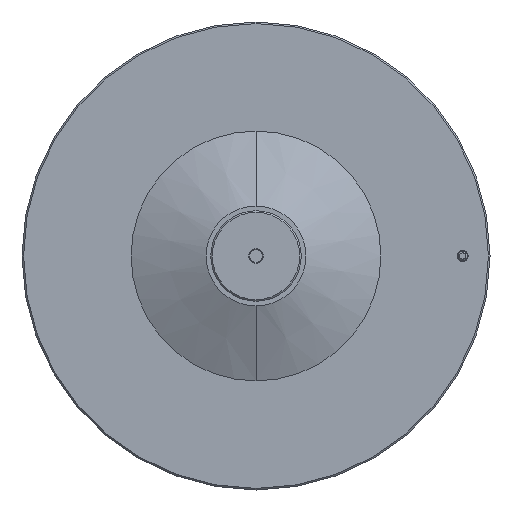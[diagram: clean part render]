
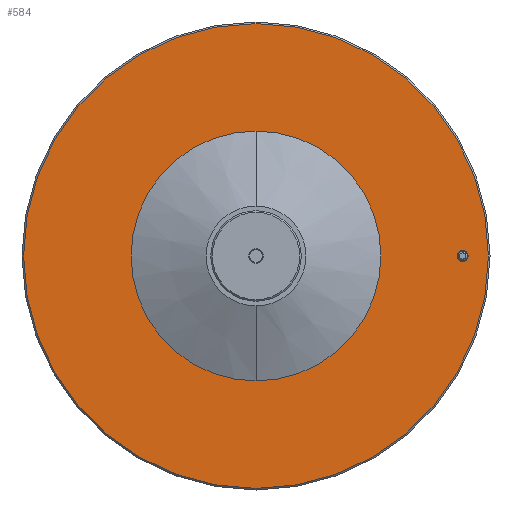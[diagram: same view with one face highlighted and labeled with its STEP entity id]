
A CAD part, front view. The second image highlights one B-rep face of the part: STEP entity #584.
In plain terms, the highlighted planar face has unit normal (0, -1, 0).
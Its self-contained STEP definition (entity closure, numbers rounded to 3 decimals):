
#31 = EDGE_LOOP ( 'NONE', ( #566, #1052 ) ) ;
#41 = DIRECTION ( 'NONE',  ( 0., 0., 1. ) ) ;
#110 = ORIENTED_EDGE ( 'NONE', *, *, #1687, .T. ) ;
#144 = AXIS2_PLACEMENT_3D ( 'NONE', #1249, #373, #393 ) ;
#206 = CIRCLE ( 'NONE', #368, 149. ) ;
#218 = DIRECTION ( 'NONE',  ( 0., 1., 0. ) ) ;
#248 = ORIENTED_EDGE ( 'NONE', *, *, #922, .T. ) ;
#252 = AXIS2_PLACEMENT_3D ( 'NONE', #1769, #891, #610 ) ;
#263 = CARTESIAN_POINT ( 'NONE',  ( 0., -5., 149. ) ) ;
#294 = CIRCLE ( 'NONE', #707, 149. ) ;
#306 = CARTESIAN_POINT ( 'NONE',  ( 0., -5., -149. ) ) ;
#340 = ORIENTED_EDGE ( 'NONE', *, *, #1122, .T. ) ;
#368 = AXIS2_PLACEMENT_3D ( 'NONE', #1413, #1557, #661 ) ;
#370 = CARTESIAN_POINT ( 'NONE',  ( 132.5, -5., -3.5 ) ) ;
#373 = DIRECTION ( 'NONE',  ( 0., 1., 0. ) ) ;
#392 = AXIS2_PLACEMENT_3D ( 'NONE', #1669, #218, #651 ) ;
#393 = DIRECTION ( 'NONE',  ( 0., 0., -1. ) ) ;
#423 = VERTEX_POINT ( 'NONE', #263 ) ;
#499 = CARTESIAN_POINT ( 'NONE',  ( 0., -5., -80.099 ) ) ;
#566 = ORIENTED_EDGE ( 'NONE', *, *, #1576, .T. ) ;
#584 = ADVANCED_FACE ( 'NONE', ( #835, #1787, #1502 ), #749, .T. ) ;
#607 = VERTEX_POINT ( 'NONE', #1190 ) ;
#610 = DIRECTION ( 'NONE',  ( 0., 0., -1. ) ) ;
#614 = AXIS2_PLACEMENT_3D ( 'NONE', #1356, #1349, #1793 ) ;
#617 = CARTESIAN_POINT ( 'NONE',  ( 0., -5., 0. ) ) ;
#621 = CARTESIAN_POINT ( 'NONE',  ( 0., -5., 0. ) ) ;
#636 = DIRECTION ( 'NONE',  ( 0., -1., 0. ) ) ;
#651 = DIRECTION ( 'NONE',  ( 0., 0., 1. ) ) ;
#661 = DIRECTION ( 'NONE',  ( 0., 0., -1. ) ) ;
#696 = CIRCLE ( 'NONE', #786, 80.099 ) ;
#707 = AXIS2_PLACEMENT_3D ( 'NONE', #621, #636, #1651 ) ;
#723 = EDGE_CURVE ( 'NONE', #1452, #423, #294, .T. ) ;
#749 = PLANE ( 'NONE',  #252 ) ;
#763 = VERTEX_POINT ( 'NONE', #370 ) ;
#773 = CARTESIAN_POINT ( 'NONE',  ( 0., -5., 80.099 ) ) ;
#777 = VERTEX_POINT ( 'NONE', #773 ) ;
#786 = AXIS2_PLACEMENT_3D ( 'NONE', #617, #1637, #41 ) ;
#822 = EDGE_CURVE ( 'NONE', #607, #763, #1628, .T. ) ;
#835 = FACE_BOUND ( 'NONE', #31, .T. ) ;
#891 = DIRECTION ( 'NONE',  ( 0., -1., 0. ) ) ;
#922 = EDGE_CURVE ( 'NONE', #423, #1452, #206, .T. ) ;
#1052 = ORIENTED_EDGE ( 'NONE', *, *, #822, .T. ) ;
#1122 = EDGE_CURVE ( 'NONE', #1690, #777, #696, .T. ) ;
#1152 = ORIENTED_EDGE ( 'NONE', *, *, #723, .T. ) ;
#1156 = CIRCLE ( 'NONE', #614, 3.5 ) ;
#1190 = CARTESIAN_POINT ( 'NONE',  ( 132.5, -5., 3.5 ) ) ;
#1249 = CARTESIAN_POINT ( 'NONE',  ( 132.5, -5., 0. ) ) ;
#1252 = EDGE_LOOP ( 'NONE', ( #110, #340 ) ) ;
#1349 = DIRECTION ( 'NONE',  ( 0., 1., 0. ) ) ;
#1356 = CARTESIAN_POINT ( 'NONE',  ( 132.5, -5., 0. ) ) ;
#1413 = CARTESIAN_POINT ( 'NONE',  ( 0., -5., 0. ) ) ;
#1427 = EDGE_LOOP ( 'NONE', ( #248, #1152 ) ) ;
#1452 = VERTEX_POINT ( 'NONE', #306 ) ;
#1502 = FACE_BOUND ( 'NONE', #1252, .T. ) ;
#1557 = DIRECTION ( 'NONE',  ( 0., -1., 0. ) ) ;
#1576 = EDGE_CURVE ( 'NONE', #763, #607, #1156, .T. ) ;
#1628 = CIRCLE ( 'NONE', #144, 3.5 ) ;
#1637 = DIRECTION ( 'NONE',  ( 0., 1., 0. ) ) ;
#1651 = DIRECTION ( 'NONE',  ( 0., 0., -1. ) ) ;
#1669 = CARTESIAN_POINT ( 'NONE',  ( 0., -5., 0. ) ) ;
#1687 = EDGE_CURVE ( 'NONE', #777, #1690, #1716, .T. ) ;
#1690 = VERTEX_POINT ( 'NONE', #499 ) ;
#1716 = CIRCLE ( 'NONE', #392, 80.099 ) ;
#1769 = CARTESIAN_POINT ( 'NONE',  ( 0., -5., 80.099 ) ) ;
#1787 = FACE_OUTER_BOUND ( 'NONE', #1427, .T. ) ;
#1793 = DIRECTION ( 'NONE',  ( 0., 0., -1. ) ) ;
